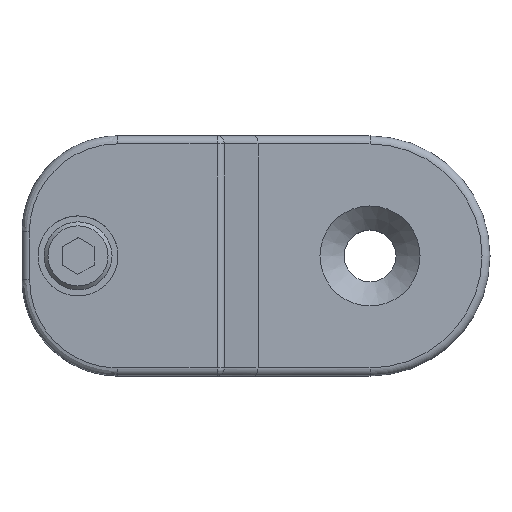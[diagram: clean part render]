
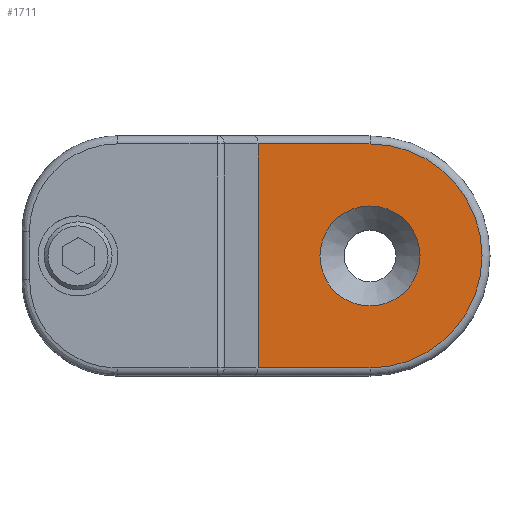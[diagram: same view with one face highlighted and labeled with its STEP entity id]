
A CAD part, top view. The second image highlights one B-rep face of the part: STEP entity #1711.
In plain terms, the highlighted planar face has unit normal (0, 0, 1).
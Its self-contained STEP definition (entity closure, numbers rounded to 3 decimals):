
#62 = EDGE_CURVE ( 'NONE', #1623, #429, #2665, .T. ) ;
#114 = FACE_OUTER_BOUND ( 'NONE', #453, .T. ) ;
#223 = CARTESIAN_POINT ( 'NONE',  ( 25., 1., 4. ) ) ;
#356 = CIRCLE ( 'NONE', #2751, 6.25 ) ;
#386 = EDGE_CURVE ( 'NONE', #599, #1623, #2998, .T. ) ;
#424 = EDGE_LOOP ( 'NONE', ( #3300 ) ) ;
#429 = VERTEX_POINT ( 'NONE', #1426 ) ;
#453 = EDGE_LOOP ( 'NONE', ( #1429, #971, #988, #3059 ) ) ;
#481 = VECTOR ( 'NONE', #531, 1000. ) ;
#531 = DIRECTION ( 'NONE',  ( 0., -1., 0. ) ) ;
#599 = VERTEX_POINT ( 'NONE', #2894 ) ;
#801 = DIRECTION ( 'NONE',  ( 0., 0., 1. ) ) ;
#971 = ORIENTED_EDGE ( 'NONE', *, *, #1906, .T. ) ;
#988 = ORIENTED_EDGE ( 'NONE', *, *, #386, .T. ) ;
#1178 = FACE_BOUND ( 'NONE', #424, .T. ) ;
#1288 = DIRECTION ( 'NONE',  ( 1., 0., 0. ) ) ;
#1311 = DIRECTION ( 'NONE',  ( 0., 0., -1. ) ) ;
#1426 = CARTESIAN_POINT ( 'NONE',  ( 11., 29., 4. ) ) ;
#1429 = ORIENTED_EDGE ( 'NONE', *, *, #2567, .T. ) ;
#1474 = DIRECTION ( 'NONE',  ( 1., 0., 0. ) ) ;
#1572 = DIRECTION ( 'NONE',  ( 1., 0., 0. ) ) ;
#1623 = VERTEX_POINT ( 'NONE', #1674 ) ;
#1674 = CARTESIAN_POINT ( 'NONE',  ( 25., 29., 4. ) ) ;
#1711 = ADVANCED_FACE ( 'NONE', ( #1178, #114 ), #1743, .T. ) ;
#1743 = PLANE ( 'NONE',  #3198 ) ;
#1841 = CARTESIAN_POINT ( 'NONE',  ( 25., 15., 4. ) ) ;
#1855 = DIRECTION ( 'NONE',  ( 1., 0., 0. ) ) ;
#1906 = EDGE_CURVE ( 'NONE', #2334, #599, #2906, .T. ) ;
#1982 = CARTESIAN_POINT ( 'NONE',  ( 31.25, 15., 4. ) ) ;
#2090 = CARTESIAN_POINT ( 'NONE',  ( 40., 29., 4. ) ) ;
#2121 = CARTESIAN_POINT ( 'NONE',  ( 25., 15., 4. ) ) ;
#2334 = VERTEX_POINT ( 'NONE', #3298 ) ;
#2366 = CARTESIAN_POINT ( 'NONE',  ( 11., 0., 4. ) ) ;
#2501 = EDGE_CURVE ( 'NONE', #2811, #2811, #356, .T. ) ;
#2533 = VECTOR ( 'NONE', #2922, 1000. ) ;
#2567 = EDGE_CURVE ( 'NONE', #429, #2334, #3194, .T. ) ;
#2616 = AXIS2_PLACEMENT_3D ( 'NONE', #2121, #801, #1855 ) ;
#2665 = LINE ( 'NONE', #2090, #2533 ) ;
#2751 = AXIS2_PLACEMENT_3D ( 'NONE', #1841, #1311, #1572 ) ;
#2811 = VERTEX_POINT ( 'NONE', #1982 ) ;
#2815 = DIRECTION ( 'NONE',  ( 0., 0., 1. ) ) ;
#2857 = VECTOR ( 'NONE', #1288, 1000. ) ;
#2894 = CARTESIAN_POINT ( 'NONE',  ( 25., 1., 4. ) ) ;
#2906 = LINE ( 'NONE', #223, #2857 ) ;
#2922 = DIRECTION ( 'NONE',  ( -1., 0., 0. ) ) ;
#2998 = CIRCLE ( 'NONE', #2616, 14. ) ;
#3059 = ORIENTED_EDGE ( 'NONE', *, *, #62, .T. ) ;
#3194 = LINE ( 'NONE', #2366, #481 ) ;
#3198 = AXIS2_PLACEMENT_3D ( 'NONE', #3381, #2815, #1474 ) ;
#3298 = CARTESIAN_POINT ( 'NONE',  ( 11., 1., 4. ) ) ;
#3300 = ORIENTED_EDGE ( 'NONE', *, *, #2501, .T. ) ;
#3381 = CARTESIAN_POINT ( 'NONE',  ( 40., 0., 4. ) ) ;
